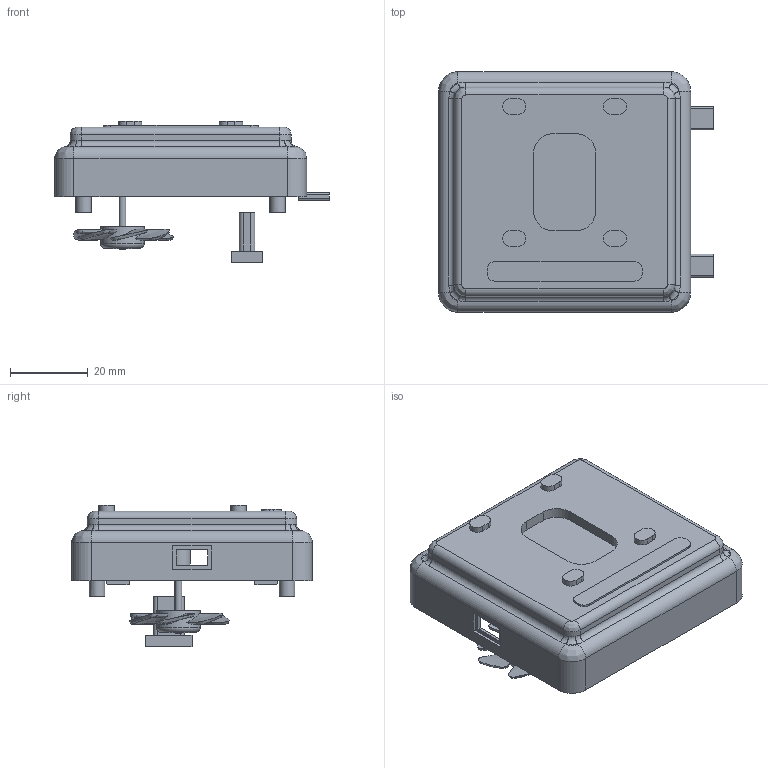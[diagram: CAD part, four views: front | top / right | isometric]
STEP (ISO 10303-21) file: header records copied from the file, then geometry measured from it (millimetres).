
FILE_DESCRIPTION(/* description */ (''),/* implementation_level */ '2;1');
FILE_NAME(/* name */ '样题10.stp',/* time_stamp */ '2021-03-16T13:04:31+08:00',/* author */ (''),/* organization */ (''),/* preprocessor_version */ 'ST-DEVELOPER v16',/* originating_system */ 'SIEMENS PLM Software NX 10.0',/* authorisation */ '');
FILE_SCHEMA (('AUTOMOTIVE_DESIGN { 1 0 10303 214 3 1 1 1 }'));
Length unit declared in the file: millimetre
Products named in the file (9): 前盖10; 外接件; 电气元件; 风扇; 喇叭; 电路板1; 屏幕1; 按钮1; 样题10
Assembly tree (13 placements, depth 2):
  样题10
    按钮1  x4
    屏幕1
    电路板1  x2
    喇叭
    风扇
    电气元件
    外接件  x2
    前盖10
Bounding box: 70.88 x 62 x 36.5 mm (x, y, z)
Volume: 15140.6 mm3; surface area: 22683.5 mm2
Topology: 13 solids, 16 shells, 479 faces, 1201 edges, 773 vertices
Faces by surface type: plane 227, cylinder 128, bspline 96, torus 21, sphere 7
Full cylindrical faces by diameter (mm): 1.764 x2, 2 x4, 3.92 x1, 4 x4, 6 x1, 8.96 x1, 11.2 x1
Entity records: 16680 total; most frequent: CARTESIAN_POINT 6463, ORIENTED_EDGE 2194, DIRECTION 1886, EDGE_CURVE 1097, VERTEX_POINT 710, AXIS2_PLACEMENT_3D 684, LINE 518, VECTOR 518
